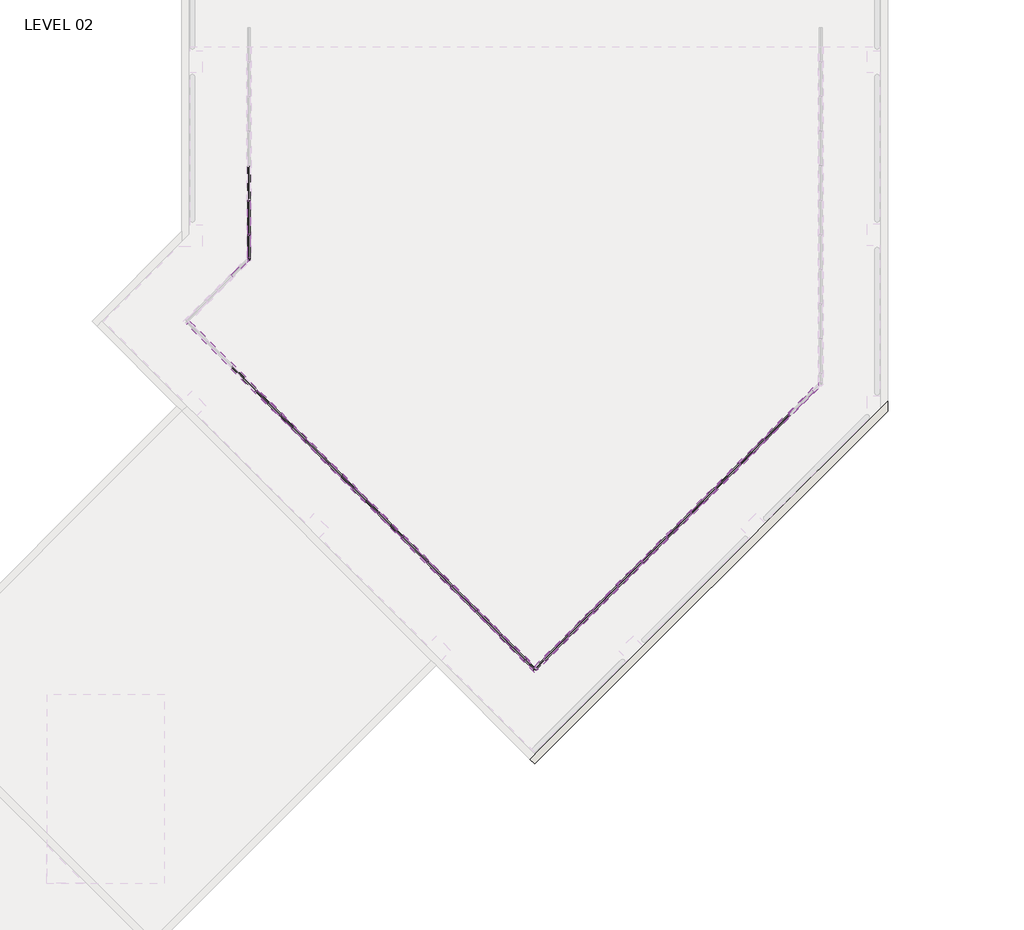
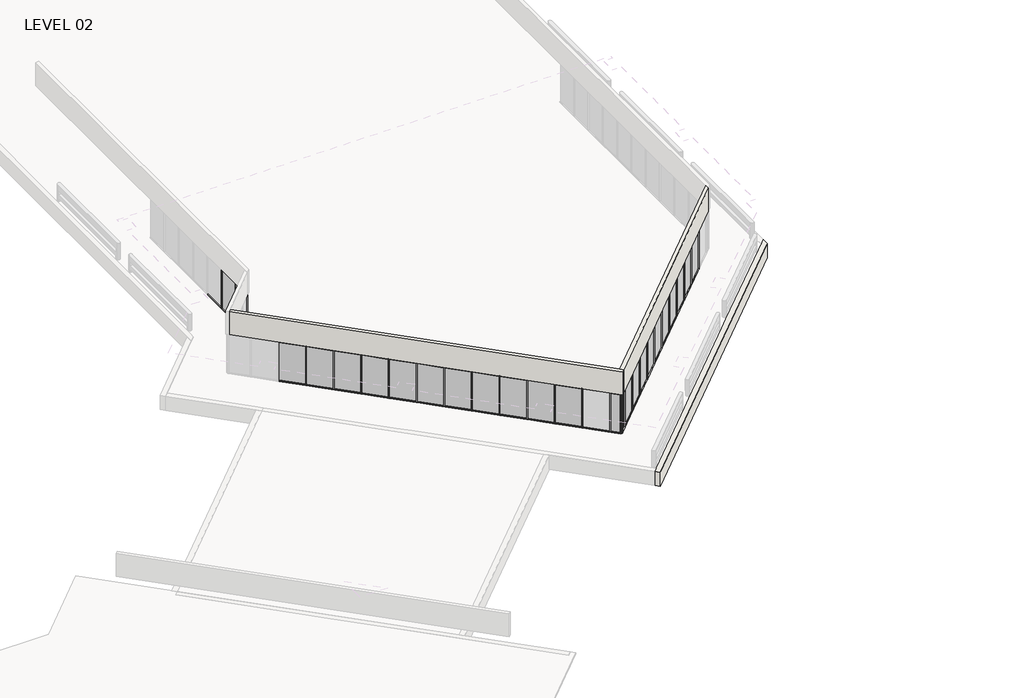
# One storey, part 10 of 19: 82 members, 25 plates, 3 walls.
"""IFC4 building model written with IfcOpenShell, lengths in millimetres."""

from ifc_helpers import new_model, si_unit, frame, origin, place, context, project, spatial, polyline, outline, extrude, faceted_brep, transform, mapped, element, save
from components import member_ed5eb8ce, member_5247f267, member_e44af9ab, member_800970d4, member_79e7b9d8, member_b8d22739, member_57f2eb73, plate_ce959b8d, plate_67294edd, plate_4e8ae714, plate_46a4c48d, plate_87d7c655

model = new_model("IFC4")

# Units and contexts
model_context = context("Model", 3, world=origin())
ifc_project = project(units=[si_unit("LENGTHUNIT", "METRE", prefix="MILLI")], contexts=[model_context])

# Site, building, storey
site = spatial("IfcSite", under=ifc_project)
building = spatial("IfcBuilding", under=site)
storey = spatial("IfcBuildingStorey", under=building, Name="LEVEL 02", Elevation=4140.2)

# Members
placement = place(None, origin())
member_shape = member_ed5eb8ce(model_context)
element("IfcMember", 1, ObjectType="Rectangular Mullion : 2\" x 4.5\" rectangular", at=placement, inside=storey, context=model_context, shape_type="MappedRepresentation", body=[
    mapped(member_shape, transform((64218.7136919, 44978.9020666, 6731.0), x_axis=(0.0, 0.0, 1.0), y_axis=(0.7071067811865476, -0.7071067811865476, 0.0), z_axis=(0.7071067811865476, 0.7071067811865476, 0.0))),
])
element("IfcMember", 2, ObjectType="Rectangular Mullion : 2\" x 4.5\" rectangular", at=placement, inside=storey, context=model_context, shape_type="MappedRepresentation", body=[
    mapped(member_shape, transform((64254.6347164, 46062.5675885, 6731.0), x_axis=(0.0, 0.0, 1.0), y_axis=(1.0, 0.0, 0.0), z_axis=(0.0, 1.0, 0.0))),
])
member_2_shape = member_5247f267(model_context)
element("IfcMember", 3, ObjectType="Rectangular Mullion : 2\" x 4.5\" rectangular", at=placement, inside=storey, context=model_context, shape_type="MappedRepresentation", body=[
    mapped(member_2_shape, transform((86989.159449, 37085.1868185, 6731.0), x_axis=(0.0, 0.0, 1.0), y_axis=(-0.707106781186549, 0.7071067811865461, 0.0), z_axis=(-0.7071067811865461, -0.707106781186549, 0.0))),
])
element("IfcMember", 4, ObjectType="Rectangular Mullion : 2\" x 4.5\" rectangular", at=placement, inside=storey, context=model_context, shape_type="MappedRepresentation", body=[
    mapped(member_2_shape, transform((84833.8979799, 34929.9253495, 6731.0), x_axis=(0.0, 0.0, 1.0), y_axis=(-0.7071067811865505, 0.7071067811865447, 0.0), z_axis=(-0.7071067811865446, -0.7071067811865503, 0.0))),
])
element("IfcMember", 5, ObjectType="Rectangular Mullion : 2\" x 4.5\" rectangular", at=placement, inside=storey, context=model_context, shape_type="MappedRepresentation", body=[
    mapped(member_2_shape, transform((83756.2672454, 33852.2946149, 6731.0), x_axis=(0.0, 0.0, 1.0), y_axis=(-0.7071067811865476, 0.7071067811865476, 0.0), z_axis=(-0.7071067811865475, -0.7071067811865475, 0.0))),
])
element("IfcMember", 6, ObjectType="Rectangular Mullion : 2\" x 4.5\" rectangular", at=placement, inside=storey, context=model_context, shape_type="MappedRepresentation", body=[
    mapped(member_2_shape, transform((82678.6365109, 32774.6638804, 6731.0), x_axis=(0.0, 0.0, 1.0), y_axis=(-0.7071067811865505, 0.7071067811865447, 0.0), z_axis=(-0.7071067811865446, -0.7071067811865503, 0.0))),
])
element("IfcMember", 7, ObjectType="Rectangular Mullion : 2\" x 4.5\" rectangular", at=placement, inside=storey, context=model_context, shape_type="MappedRepresentation", body=[
    mapped(member_2_shape, transform((80523.3750418, 30619.4024113, 6731.0), x_axis=(0.0, 0.0, 1.0), y_axis=(-0.7071067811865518, 0.7071067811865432, 0.0), z_axis=(-0.7071067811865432, -0.7071067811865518, 0.0))),
])
element("IfcMember", 8, ObjectType="Rectangular Mullion : 2\" x 4.5\" rectangular", at=placement, inside=storey, context=model_context, shape_type="MappedRepresentation", body=[
    mapped(member_2_shape, transform((79445.7443073, 29541.7716768, 6731.0), x_axis=(0.0, 0.0, 1.0), y_axis=(-0.7071067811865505, 0.7071067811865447, 0.0), z_axis=(-0.7071067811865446, -0.7071067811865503, 0.0))),
])
element("IfcMember", 9, ObjectType="Rectangular Mullion : 2\" x 4.5\" rectangular", at=placement, inside=storey, context=model_context, shape_type="MappedRepresentation", body=[
    mapped(member_2_shape, transform((75367.3482119, 28428.3985904, 6731.0), x_axis=(0.0, 0.0, 1.0), y_axis=(0.7071067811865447, 0.7071067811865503, 0.0), z_axis=(-0.7071067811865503, 0.7071067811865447, 0.0))),
])
element("IfcMember", 10, ObjectType="Rectangular Mullion : 2\" x 4.5\" rectangular", at=placement, inside=storey, context=model_context, shape_type="MappedRepresentation", body=[
    mapped(member_2_shape, transform((73212.0867428, 30583.6600595, 6731.0), x_axis=(0.0, 0.0, 1.0), y_axis=(0.7071067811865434, 0.7071067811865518, 0.0), z_axis=(-0.7071067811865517, 0.7071067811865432, 0.0))),
])
element("IfcMember", 11, ObjectType="Rectangular Mullion : 2\" x 4.5\" rectangular", at=placement, inside=storey, context=model_context, shape_type="MappedRepresentation", body=[
    mapped(member_2_shape, transform((71056.8252738, 32738.9215286, 6731.0), x_axis=(0.0, 0.0, 1.0), y_axis=(0.7071067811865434, 0.7071067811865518, 0.0), z_axis=(-0.7071067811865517, 0.7071067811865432, 0.0))),
])
element("IfcMember", 12, ObjectType="Rectangular Mullion : 2\" x 4.5\" rectangular", at=placement, inside=storey, context=model_context, shape_type="MappedRepresentation", body=[
    mapped(member_2_shape, transform((66746.6596809, 37049.0871214, 6731.0), x_axis=(0.0, 0.0, 1.0), y_axis=(0.7071067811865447, 0.7071067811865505, 0.0), z_axis=(-0.7071067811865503, 0.7071067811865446, 0.0))),
])
element("IfcMember", 13, ObjectType="Rectangular Mullion : 2\" x 4.5\" rectangular", at=placement, inside=storey, context=model_context, shape_type="MappedRepresentation", body=[
    mapped(member_2_shape, transform((64591.3982119, 39204.3485904, 6731.0), x_axis=(0.0, 0.0, 1.0), y_axis=(0.7071067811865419, 0.7071067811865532, 0.0), z_axis=(-0.7071067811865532, 0.7071067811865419, 0.0))),
])
element("IfcMember", 14, ObjectType="Rectangular Mullion : 2\" x 4.5\" rectangular", at=placement, inside=storey, context=model_context, shape_type="MappedRepresentation", body=[
    mapped(member_2_shape, transform((78368.1135728, 28464.1409423, 6731.0), x_axis=(0.0, 0.0, 1.0), y_axis=(-0.7071067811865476, 0.7071067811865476, 0.0), z_axis=(-0.7071067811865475, -0.7071067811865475, 0.0))),
])
element("IfcMember", 15, ObjectType="Rectangular Mullion : 2\" x 4.5\" rectangular", at=placement, inside=storey, context=model_context, shape_type="MappedRepresentation", body=[
    mapped(member_2_shape, transform((81601.0057764, 31697.0331459, 6731.0), x_axis=(0.0, 0.0, 1.0), y_axis=(-0.707106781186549, 0.7071067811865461, 0.0), z_axis=(-0.7071067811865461, -0.707106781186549, 0.0))),
])
element("IfcMember", 16, ObjectType="Rectangular Mullion : 2\" x 4.5\" rectangular", at=placement, inside=storey, context=model_context, shape_type="MappedRepresentation", body=[
    mapped(member_2_shape, transform((85911.5287145, 36007.556084, 6731.0), x_axis=(0.0, 0.0, 1.0), y_axis=(-0.7071067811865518, 0.7071067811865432, 0.0), z_axis=(-0.7071067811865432, -0.7071067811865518, 0.0))),
])
element("IfcMember", 17, ObjectType="Rectangular Mullion : 2\" x 4.5\" rectangular", at=placement, inside=storey, context=model_context, shape_type="MappedRepresentation", body=[
    mapped(member_2_shape, transform((88066.7901835, 38162.817553, 6731.0), x_axis=(0.0, 0.0, 1.0), y_axis=(-0.7071067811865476, 0.7071067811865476, 0.0), z_axis=(-0.7071067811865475, -0.7071067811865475, 0.0))),
])
element("IfcMember", 18, ObjectType="Rectangular Mullion : 2\" x 4.5\" rectangular", at=placement, inside=storey, context=model_context, shape_type="MappedRepresentation", body=[
    mapped(member_2_shape, transform((77290.4828382, 27386.5102078, 6731.0), x_axis=(0.0, 0.0, 1.0), y_axis=(-0.7071067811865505, 0.7071067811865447, 0.0), z_axis=(-0.7071067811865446, -0.7071067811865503, 0.0))),
])
element("IfcMember", 19, ObjectType="Rectangular Mullion : 2\" x 4.5\" rectangular", at=placement, inside=storey, context=model_context, shape_type="MappedRepresentation", body=[
    mapped(member_2_shape, transform((74289.7174773, 29506.029325, 6731.0), x_axis=(0.0, 0.0, 1.0), y_axis=(0.7071067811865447, 0.7071067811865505, 0.0), z_axis=(-0.7071067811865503, 0.7071067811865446, 0.0))),
])
element("IfcMember", 20, ObjectType="Rectangular Mullion : 2\" x 4.5\" rectangular", at=placement, inside=storey, context=model_context, shape_type="MappedRepresentation", body=[
    mapped(member_2_shape, transform((72134.4560083, 31661.290794, 6731.0), x_axis=(0.0, 0.0, 1.0), y_axis=(0.7071067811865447, 0.7071067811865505, 0.0), z_axis=(-0.7071067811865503, 0.7071067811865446, 0.0))),
])
element("IfcMember", 21, ObjectType="Rectangular Mullion : 2\" x 4.5\" rectangular", at=placement, inside=storey, context=model_context, shape_type="MappedRepresentation", body=[
    mapped(member_2_shape, transform((69979.1945392, 33816.5522631, 6731.0), x_axis=(0.0, 0.0, 1.0), y_axis=(0.7071067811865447, 0.7071067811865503, 0.0), z_axis=(-0.7071067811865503, 0.7071067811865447, 0.0))),
])
element("IfcMember", 22, ObjectType="Rectangular Mullion : 2\" x 4.5\" rectangular", at=placement, inside=storey, context=model_context, shape_type="MappedRepresentation", body=[
    mapped(member_2_shape, transform((67824.2904155, 35971.4563869, 6731.0), x_axis=(0.0, 0.0, 1.0), y_axis=(0.7071067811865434, 0.7071067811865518, 0.0), z_axis=(-0.7071067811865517, 0.7071067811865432, 0.0))),
])
element("IfcMember", 23, ObjectType="Rectangular Mullion : 2\" x 4.5\" rectangular", at=placement, inside=storey, context=model_context, shape_type="MappedRepresentation", body=[
    mapped(member_2_shape, transform((65669.0289464, 38126.7178559, 6731.0), x_axis=(0.0, 0.0, 1.0), y_axis=(0.7071067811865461, 0.7071067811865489, 0.0), z_axis=(-0.7071067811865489, 0.7071067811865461, 0.0))),
])
element("IfcMember", 24, ObjectType="Rectangular Mullion : 2\" x 4.5\" rectangular", at=placement, inside=storey, context=model_context, shape_type="MappedRepresentation", body=[
    mapped(member_2_shape, transform((64254.6347164, 47586.5675885, 6731.0), x_axis=(0.0, 0.0, 1.0), y_axis=(1.0, 0.0, 0.0), z_axis=(0.0, 1.0, 0.0))),
])
element("IfcMember", 25, ObjectType="Rectangular Mullion : 2\" x 4.5\" rectangular", at=placement, inside=storey, context=model_context, shape_type="MappedRepresentation", body=[
    mapped(member_shape, transform((64254.6347164, 45065.6230911, 4140.2), x_axis=(0.0, 0.0, -1.0), y_axis=(1.0, 0.0, 0.0), z_axis=(0.0, -1.0, 0.0))),
])
element("IfcMember", 26, ObjectType="Rectangular Mullion : 2\" x 4.5\" rectangular", at=placement, inside=storey, context=model_context, shape_type="MappedRepresentation", body=[
    mapped(member_2_shape, transform((86953.2384245, 37049.265794, 4140.2), x_axis=(0.0, 0.0, -1.0), y_axis=(-0.7071067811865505, 0.7071067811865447, 0.0), z_axis=(0.7071067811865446, 0.7071067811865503, 0.0))),
])
element("IfcMember", 27, ObjectType="Rectangular Mullion : 2\" x 4.5\" rectangular", at=placement, inside=storey, context=model_context, shape_type="MappedRepresentation", body=[
    mapped(member_2_shape, transform((84797.9769555, 34894.004325, 4140.2), x_axis=(0.0, 0.0, -1.0), y_axis=(-0.7071067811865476, 0.7071067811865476, 0.0), z_axis=(0.7071067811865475, 0.7071067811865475, 0.0))),
])
element("IfcMember", 28, ObjectType="Rectangular Mullion : 2\" x 4.5\" rectangular", at=placement, inside=storey, context=model_context, shape_type="MappedRepresentation", body=[
    mapped(member_2_shape, transform((83720.3462209, 33816.3735904, 4140.2), x_axis=(0.0, 0.0, -1.0), y_axis=(-0.7071067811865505, 0.7071067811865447, 0.0), z_axis=(0.7071067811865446, 0.7071067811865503, 0.0))),
])
element("IfcMember", 29, ObjectType="Rectangular Mullion : 2\" x 4.5\" rectangular", at=placement, inside=storey, context=model_context, shape_type="MappedRepresentation", body=[
    mapped(member_2_shape, transform((82642.7154864, 32738.7428559, 4140.2), x_axis=(0.0, 0.0, -1.0), y_axis=(-0.7071067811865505, 0.7071067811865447, 0.0), z_axis=(0.7071067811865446, 0.7071067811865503, 0.0))),
])
element("IfcMember", 30, ObjectType="Rectangular Mullion : 2\" x 4.5\" rectangular", at=placement, inside=storey, context=model_context, shape_type="MappedRepresentation", body=[
    mapped(member_2_shape, transform((80487.4540173, 30583.4813869, 4140.2), x_axis=(0.0, 0.0, -1.0), y_axis=(-0.7071067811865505, 0.7071067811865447, 0.0), z_axis=(0.7071067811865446, 0.7071067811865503, 0.0))),
])
element("IfcMember", 31, ObjectType="Rectangular Mullion : 2\" x 4.5\" rectangular", at=placement, inside=storey, context=model_context, shape_type="MappedRepresentation", body=[
    mapped(member_2_shape, transform((79409.8232828, 29505.8506523, 4140.2), x_axis=(0.0, 0.0, -1.0), y_axis=(-0.7071067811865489, 0.7071067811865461, 0.0), z_axis=(0.7071067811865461, 0.7071067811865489, 0.0))),
])
element("IfcMember", 32, ObjectType="Rectangular Mullion : 2\" x 4.5\" rectangular", at=placement, inside=storey, context=model_context, shape_type="MappedRepresentation", body=[
    mapped(member_2_shape, transform((75331.4271874, 28464.3196149, 4140.2), x_axis=(0.0, 0.0, -1.0), y_axis=(0.7071067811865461, 0.7071067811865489, 0.0), z_axis=(0.7071067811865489, -0.7071067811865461, 0.0))),
])
element("IfcMember", 33, ObjectType="Rectangular Mullion : 2\" x 4.5\" rectangular", at=placement, inside=storey, context=model_context, shape_type="MappedRepresentation", body=[
    mapped(member_2_shape, transform((73176.1657183, 30619.581084, 4140.2), x_axis=(0.0, 0.0, -1.0), y_axis=(0.7071067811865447, 0.7071067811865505, 0.0), z_axis=(0.7071067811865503, -0.7071067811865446, 0.0))),
])
element("IfcMember", 34, ObjectType="Rectangular Mullion : 2\" x 4.5\" rectangular", at=placement, inside=storey, context=model_context, shape_type="MappedRepresentation", body=[
    mapped(member_2_shape, transform((71020.9042493, 32774.842553, 4140.2), x_axis=(0.0, 0.0, -1.0), y_axis=(0.7071067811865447, 0.7071067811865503, 0.0), z_axis=(0.7071067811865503, -0.7071067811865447, 0.0))),
])
element("IfcMember", 35, ObjectType="Rectangular Mullion : 2\" x 4.5\" rectangular", at=placement, inside=storey, context=model_context, shape_type="MappedRepresentation", body=[
    mapped(member_2_shape, transform((68866.0001255, 34929.7466768, 4140.2), x_axis=(0.0, 0.0, -1.0), y_axis=(0.7071067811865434, 0.7071067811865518, 0.0), z_axis=(0.7071067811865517, -0.7071067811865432, 0.0))),
])
element("IfcMember", 36, ObjectType="Rectangular Mullion : 2\" x 4.5\" rectangular", at=placement, inside=storey, context=model_context, shape_type="MappedRepresentation", body=[
    mapped(member_2_shape, transform((66710.7386564, 37085.0081459, 4140.2), x_axis=(0.0, 0.0, -1.0), y_axis=(0.7071067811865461, 0.7071067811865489, 0.0), z_axis=(0.7071067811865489, -0.7071067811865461, 0.0))),
])
element("IfcMember", 37, ObjectType="Rectangular Mullion : 2\" x 4.5\" rectangular", at=placement, inside=storey, context=model_context, shape_type="MappedRepresentation", body=[
    mapped(member_2_shape, transform((64555.4771874, 39240.2696149, 4140.2), x_axis=(0.0, 0.0, -1.0), y_axis=(0.7071067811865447, 0.7071067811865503, 0.0), z_axis=(0.7071067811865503, -0.7071067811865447, 0.0))),
])
element("IfcMember", 38, ObjectType="Rectangular Mullion : 2\" x 4.5\" rectangular", at=placement, inside=storey, context=model_context, shape_type="MappedRepresentation", body=[
    mapped(member_2_shape, transform((78332.1925483, 28428.2199178, 4140.2), x_axis=(0.0, 0.0, -1.0), y_axis=(-0.707106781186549, 0.7071067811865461, 0.0), z_axis=(0.7071067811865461, 0.707106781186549, 0.0))),
])
element("IfcMember", 39, ObjectType="Rectangular Mullion : 2\" x 4.5\" rectangular", at=placement, inside=storey, context=model_context, shape_type="MappedRepresentation", body=[
    mapped(member_2_shape, transform((76409.0579219, 27386.6888804, 4140.2), x_axis=(0.0, 0.0, -1.0), y_axis=(0.7071067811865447, 0.7071067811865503, 0.0), z_axis=(0.7071067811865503, -0.7071067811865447, 0.0))),
])
element("IfcMember", 40, ObjectType="Rectangular Mullion : 2\" x 4.5\" rectangular", at=placement, inside=storey, context=model_context, shape_type="MappedRepresentation", body=[
    mapped(member_2_shape, transform((81565.0847519, 31661.1121214, 4140.2), x_axis=(0.0, 0.0, -1.0), y_axis=(-0.7071067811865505, 0.7071067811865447, 0.0), z_axis=(0.7071067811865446, 0.7071067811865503, 0.0))),
])
element("IfcMember", 41, ObjectType="Rectangular Mullion : 2\" x 4.5\" rectangular", at=placement, inside=storey, context=model_context, shape_type="MappedRepresentation", body=[
    mapped(member_2_shape, transform((85875.60769, 35971.6350595, 4140.2), x_axis=(0.0, 0.0, -1.0), y_axis=(-0.7071067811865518, 0.7071067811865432, 0.0), z_axis=(0.7071067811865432, 0.7071067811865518, 0.0))),
])
element("IfcMember", 42, ObjectType="Rectangular Mullion : 2\" x 4.5\" rectangular", at=placement, inside=storey, context=model_context, shape_type="MappedRepresentation", body=[
    mapped(member_2_shape, transform((88030.869159, 38126.8965286, 4140.2), x_axis=(0.0, 0.0, -1.0), y_axis=(-0.707106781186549, 0.7071067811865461, 0.0), z_axis=(0.7071067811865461, 0.707106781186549, 0.0))),
])
element("IfcMember", 43, ObjectType="Rectangular Mullion : 2\" x 4.5\" rectangular", at=placement, inside=storey, context=model_context, shape_type="MappedRepresentation", body=[
    mapped(member_2_shape, transform((74253.7964529, 29541.9503495, 4140.2), x_axis=(0.0, 0.0, -1.0), y_axis=(0.7071067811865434, 0.7071067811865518, 0.0), z_axis=(0.7071067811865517, -0.7071067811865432, 0.0))),
])
element("IfcMember", 44, ObjectType="Rectangular Mullion : 2\" x 4.5\" rectangular", at=placement, inside=storey, context=model_context, shape_type="MappedRepresentation", body=[
    mapped(member_2_shape, transform((72098.5349838, 31697.2118185, 4140.2), x_axis=(0.0, 0.0, -1.0), y_axis=(0.7071067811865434, 0.7071067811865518, 0.0), z_axis=(0.7071067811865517, -0.7071067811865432, 0.0))),
])
element("IfcMember", 45, ObjectType="Rectangular Mullion : 2\" x 4.5\" rectangular", at=placement, inside=storey, context=model_context, shape_type="MappedRepresentation", body=[
    mapped(member_2_shape, transform((67788.369391, 36007.3774113, 4140.2), x_axis=(0.0, 0.0, -1.0), y_axis=(0.7071067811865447, 0.7071067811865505, 0.0), z_axis=(0.7071067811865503, -0.7071067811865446, 0.0))),
])
element("IfcMember", 46, ObjectType="Rectangular Mullion : 2\" x 4.5\" rectangular", at=placement, inside=storey, context=model_context, shape_type="MappedRepresentation", body=[
    mapped(member_2_shape, transform((65633.1079219, 38162.6388804, 4140.2), x_axis=(0.0, 0.0, -1.0), y_axis=(0.7071067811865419, 0.7071067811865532, 0.0), z_axis=(0.7071067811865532, -0.7071067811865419, 0.0))),
])
element("IfcMember", 47, ObjectType="Rectangular Mullion : 2\" x 4.5\" rectangular", at=placement, inside=storey, context=model_context, shape_type="MappedRepresentation", body=[
    mapped(member_2_shape, transform((64254.6347164, 46113.3675885, 4140.2), x_axis=(0.0, 0.0, -1.0), y_axis=(1.0, 0.0, 0.0), z_axis=(0.0, -1.0, 0.0))),
])
element("IfcMember", 48, ObjectType="Rectangular Mullion : 2\" x 4.5\" rectangular", at=placement, inside=storey, context=model_context, shape_type="MappedRepresentation", body=[
    mapped(member_2_shape, transform((64254.6347164, 47637.3675885, 4140.2), x_axis=(0.0, 0.0, -1.0), y_axis=(1.0, 0.0, 0.0), z_axis=(0.0, -1.0, 0.0))),
])
member_3_shape = member_e44af9ab(model_context)
element("IfcMember", 49, ObjectType="Rectangular Mullion : 2\" x 4.5\" rectangular", at=placement, inside=storey, context=model_context, shape_type="MappedRepresentation", body=[
    mapped(member_3_shape, transform((86971.1989368, 37067.2263063, 4140.2), x_axis=(-0.7071067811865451, -0.7071067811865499, 0.0), y_axis=(-0.7071067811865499, 0.7071067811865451, 0.0), z_axis=(0.0, 0.0, -1.0))),
])
element("IfcMember", 50, ObjectType="Rectangular Mullion : 2\" x 4.5\" rectangular", at=placement, inside=storey, context=model_context, shape_type="MappedRepresentation", body=[
    mapped(member_3_shape, transform((84815.9374677, 34911.9648372, 4140.2), x_axis=(-0.7071067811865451, -0.7071067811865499, 0.0), y_axis=(-0.7071067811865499, 0.7071067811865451, 0.0), z_axis=(0.0, 0.0, -1.0))),
])
element("IfcMember", 51, ObjectType="Rectangular Mullion : 2\" x 4.5\" rectangular", at=placement, inside=storey, context=model_context, shape_type="MappedRepresentation", body=[
    mapped(member_3_shape, transform((83738.3067332, 33834.3341027, 4140.2), x_axis=(-0.7071067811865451, -0.7071067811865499, 0.0), y_axis=(-0.7071067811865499, 0.7071067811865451, 0.0), z_axis=(0.0, 0.0, -1.0))),
])
element("IfcMember", 52, ObjectType="Rectangular Mullion : 2\" x 4.5\" rectangular", at=placement, inside=storey, context=model_context, shape_type="MappedRepresentation", body=[
    mapped(member_3_shape, transform((82660.6759986, 32756.7033682, 4140.2), x_axis=(-0.7071067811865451, -0.7071067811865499, 0.0), y_axis=(-0.7071067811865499, 0.7071067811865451, 0.0), z_axis=(0.0, 0.0, -1.0))),
])
element("IfcMember", 53, ObjectType="Rectangular Mullion : 2\" x 4.5\" rectangular", at=placement, inside=storey, context=model_context, shape_type="MappedRepresentation", body=[
    mapped(member_3_shape, transform((80505.4145296, 30601.4418991, 4140.2), x_axis=(-0.7071067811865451, -0.7071067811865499, 0.0), y_axis=(-0.7071067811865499, 0.7071067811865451, 0.0), z_axis=(0.0, 0.0, -1.0))),
])
element("IfcMember", 54, ObjectType="Rectangular Mullion : 2\" x 4.5\" rectangular", at=placement, inside=storey, context=model_context, shape_type="MappedRepresentation", body=[
    mapped(member_3_shape, transform((79427.7837951, 29523.8111646, 4140.2), x_axis=(-0.7071067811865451, -0.7071067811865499, 0.0), y_axis=(-0.7071067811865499, 0.7071067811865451, 0.0), z_axis=(0.0, 0.0, -1.0))),
])
element("IfcMember", 55, ObjectType="Rectangular Mullion : 2\" x 4.5\" rectangular", at=placement, inside=storey, context=model_context, shape_type="MappedRepresentation", body=[
    mapped(member_3_shape, transform((75349.3876996, 28446.3591027, 4140.2), x_axis=(-0.7071067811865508, 0.7071067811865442, 0.0), y_axis=(0.7071067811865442, 0.7071067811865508, 0.0), z_axis=(0.0, 0.0, -1.0))),
])
element("IfcMember", 56, ObjectType="Rectangular Mullion : 2\" x 4.5\" rectangular", at=placement, inside=storey, context=model_context, shape_type="MappedRepresentation", body=[
    mapped(member_3_shape, transform((73194.1262306, 30601.6205717, 4140.2), x_axis=(-0.7071067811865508, 0.7071067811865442, 0.0), y_axis=(0.7071067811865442, 0.7071067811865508, 0.0), z_axis=(0.0, 0.0, -1.0))),
])
element("IfcMember", 57, ObjectType="Rectangular Mullion : 2\" x 4.5\" rectangular", at=placement, inside=storey, context=model_context, shape_type="MappedRepresentation", body=[
    mapped(member_3_shape, transform((71038.8647615, 32756.8820408, 4140.2), x_axis=(-0.7071067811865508, 0.7071067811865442, 0.0), y_axis=(0.7071067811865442, 0.7071067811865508, 0.0), z_axis=(0.0, 0.0, -1.0))),
])
element("IfcMember", 58, ObjectType="Rectangular Mullion : 2\" x 4.5\" rectangular", at=placement, inside=storey, context=model_context, shape_type="MappedRepresentation", body=[
    mapped(member_3_shape, transform((68883.9606377, 34911.7861646, 4140.2), x_axis=(-0.7071067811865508, 0.7071067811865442, 0.0), y_axis=(0.7071067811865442, 0.7071067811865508, 0.0), z_axis=(0.0, 0.0, -1.0))),
])
element("IfcMember", 59, ObjectType="Rectangular Mullion : 2\" x 4.5\" rectangular", at=placement, inside=storey, context=model_context, shape_type="MappedRepresentation", body=[
    mapped(member_3_shape, transform((66728.6991687, 37067.0476336, 4140.2), x_axis=(-0.7071067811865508, 0.7071067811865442, 0.0), y_axis=(0.7071067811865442, 0.7071067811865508, 0.0), z_axis=(0.0, 0.0, -1.0))),
])
element("IfcMember", 60, ObjectType="Rectangular Mullion : 2\" x 4.5\" rectangular", at=placement, inside=storey, context=model_context, shape_type="MappedRepresentation", body=[
    mapped(member_3_shape, transform((64573.4376996, 39222.3091027, 4140.2), x_axis=(-0.7071067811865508, 0.7071067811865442, 0.0), y_axis=(0.7071067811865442, 0.7071067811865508, 0.0), z_axis=(0.0, 0.0, -1.0))),
])
element("IfcMember", 61, ObjectType="Rectangular Mullion : 2\" x 4.5\" rectangular", at=placement, inside=storey, context=model_context, shape_type="MappedRepresentation", body=[
    mapped(member_3_shape, transform((78350.1530605, 28446.18043, 4140.2), x_axis=(-0.7071067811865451, -0.7071067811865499, 0.0), y_axis=(-0.7071067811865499, 0.7071067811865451, 0.0), z_axis=(0.0, 0.0, -1.0))),
])
element("IfcMember", 62, ObjectType="Rectangular Mullion : 2\" x 4.5\" rectangular", at=placement, inside=storey, context=model_context, shape_type="MappedRepresentation", body=[
    mapped(member_3_shape, transform((76427.0184342, 27368.7283682, 4140.2), x_axis=(-0.7071067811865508, 0.7071067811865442, 0.0), y_axis=(0.7071067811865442, 0.7071067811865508, 0.0), z_axis=(0.0, 0.0, -1.0))),
])
element("IfcMember", 63, ObjectType="Rectangular Mullion : 2\" x 4.5\" rectangular", at=placement, inside=storey, context=model_context, shape_type="MappedRepresentation", body=[
    mapped(member_3_shape, transform((81583.0452641, 31679.0726336, 4140.2), x_axis=(-0.7071067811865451, -0.7071067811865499, 0.0), y_axis=(-0.7071067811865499, 0.7071067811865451, 0.0), z_axis=(0.0, 0.0, -1.0))),
])
element("IfcMember", 64, ObjectType="Rectangular Mullion : 2\" x 4.5\" rectangular", at=placement, inside=storey, context=model_context, shape_type="MappedRepresentation", body=[
    mapped(member_3_shape, transform((85893.5682022, 35989.5955717, 4140.2), x_axis=(-0.7071067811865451, -0.7071067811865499, 0.0), y_axis=(-0.7071067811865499, 0.7071067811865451, 0.0), z_axis=(0.0, 0.0, -1.0))),
])
element("IfcMember", 65, ObjectType="Rectangular Mullion : 2\" x 4.5\" rectangular", at=placement, inside=storey, context=model_context, shape_type="MappedRepresentation", body=[
    mapped(member_3_shape, transform((88048.8296713, 38144.8570408, 4140.2), x_axis=(-0.7071067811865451, -0.7071067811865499, 0.0), y_axis=(-0.7071067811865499, 0.7071067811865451, 0.0), z_axis=(0.0, 0.0, -1.0))),
])
element("IfcMember", 66, ObjectType="Rectangular Mullion : 2\" x 4.5\" rectangular", at=placement, inside=storey, context=model_context, shape_type="MappedRepresentation", body=[
    mapped(member_3_shape, transform((77272.522326, 27368.5496955, 4140.2), x_axis=(-0.7071067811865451, -0.7071067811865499, 0.0), y_axis=(-0.7071067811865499, 0.7071067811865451, 0.0), z_axis=(0.0, 0.0, -1.0))),
])
element("IfcMember", 67, ObjectType="Rectangular Mullion : 2\" x 4.5\" rectangular", at=placement, inside=storey, context=model_context, shape_type="MappedRepresentation", body=[
    mapped(member_3_shape, transform((74271.7569651, 29523.9898372, 4140.2), x_axis=(-0.7071067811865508, 0.7071067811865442, 0.0), y_axis=(0.7071067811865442, 0.7071067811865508, 0.0), z_axis=(0.0, 0.0, -1.0))),
])
element("IfcMember", 68, ObjectType="Rectangular Mullion : 2\" x 4.5\" rectangular", at=placement, inside=storey, context=model_context, shape_type="MappedRepresentation", body=[
    mapped(member_3_shape, transform((72116.495496, 31679.2513063, 4140.2), x_axis=(-0.7071067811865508, 0.7071067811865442, 0.0), y_axis=(0.7071067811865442, 0.7071067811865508, 0.0), z_axis=(0.0, 0.0, -1.0))),
])
element("IfcMember", 69, ObjectType="Rectangular Mullion : 2\" x 4.5\" rectangular", at=placement, inside=storey, context=model_context, shape_type="MappedRepresentation", body=[
    mapped(member_3_shape, transform((69961.234027, 33834.5127753, 4140.2), x_axis=(-0.7071067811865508, 0.7071067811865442, 0.0), y_axis=(0.7071067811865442, 0.7071067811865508, 0.0), z_axis=(0.0, 0.0, -1.0))),
])
element("IfcMember", 70, ObjectType="Rectangular Mullion : 2\" x 4.5\" rectangular", at=placement, inside=storey, context=model_context, shape_type="MappedRepresentation", body=[
    mapped(member_3_shape, transform((67806.3299032, 35989.4168991, 4140.2), x_axis=(-0.7071067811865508, 0.7071067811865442, 0.0), y_axis=(0.7071067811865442, 0.7071067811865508, 0.0), z_axis=(0.0, 0.0, -1.0))),
])
element("IfcMember", 71, ObjectType="Rectangular Mullion : 2\" x 4.5\" rectangular", at=placement, inside=storey, context=model_context, shape_type="MappedRepresentation", body=[
    mapped(member_3_shape, transform((65651.0684342, 38144.6783682, 4140.2), x_axis=(-0.7071067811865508, 0.7071067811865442, 0.0), y_axis=(0.7071067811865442, 0.7071067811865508, 0.0), z_axis=(0.0, 0.0, -1.0))),
])
element("IfcMember", 72, ObjectType="Rectangular Mullion : 2\" x 4.5\" rectangular", at=placement, inside=storey, context=model_context, shape_type="MappedRepresentation", body=[
    mapped(member_3_shape, transform((64254.6347164, 46087.9675885, 4140.2), x_axis=(0.0, 1.0, 0.0), y_axis=(1.0, 0.0, 0.0), z_axis=(0.0, 0.0, -1.0))),
])
element("IfcMember", 73, ObjectType="Rectangular Mullion : 2\" x 4.5\" rectangular", at=placement, inside=storey, context=model_context, shape_type="MappedRepresentation", body=[
    mapped(member_3_shape, transform((64254.6347164, 47611.9675885, 4140.2), x_axis=(0.0, 1.0, 0.0), y_axis=(1.0, 0.0, 0.0), z_axis=(0.0, 0.0, -1.0))),
])
member_4_shape = member_800970d4(model_context)
element("IfcMember", 74, ObjectType="Rectangular Mullion : 2\" x 4.5\" rectangular", at=placement, inside=storey, context=model_context, shape_type="MappedRepresentation", body=[
    mapped(member_4_shape, transform((76849.8597164, 26945.8870859, 4140.2), x_axis=(-0.7071067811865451, -0.7071067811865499, 0.0), y_axis=(-0.7071067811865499, 0.7071067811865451, 0.0), z_axis=(0.0, 0.0, -1.0))),
])
element("IfcMember", 75, ObjectType="Rectangular Mullion : 2\" x 4.5\" rectangular", at=placement, inside=storey, context=model_context, shape_type="MappedRepresentation", body=[
    mapped(member_4_shape, transform((64254.6347164, 45014.8230911, 4140.2), x_axis=(0.7071067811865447, 0.7071067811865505, 0.0), y_axis=(0.7071067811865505, -0.7071067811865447, 0.0), z_axis=(0.0, 0.0, -1.0))),
])
element("IfcMember", 76, ObjectType="Rectangular Mullion : 2\" x 4.5\" rectangular", at=placement, inside=storey, context=model_context, shape_type="MappedRepresentation", body=[
    mapped(member_4_shape, transform((76849.8597164, 26945.8870859, 6731.0), x_axis=(0.7071067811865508, -0.7071067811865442, 0.0), y_axis=(0.7071067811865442, 0.7071067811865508, 0.0), z_axis=(0.0, 0.0, 1.0))),
])
element("IfcMember", 77, ObjectType="Rectangular Mullion : 2\" x 4.5\" rectangular", at=placement, inside=storey, context=model_context, shape_type="MappedRepresentation", body=[
    mapped(member_4_shape, transform((64254.6347164, 45014.8230911, 6731.0), x_axis=(0.0, -1.0, 0.0), y_axis=(1.0, 0.0, 0.0), z_axis=(0.0, 0.0, 1.0))),
])
member_5_shape = member_79e7b9d8(model_context)
element("IfcMember", 78, ObjectType="Rectangular Mullion : 2\" x 4.5\" rectangular", at=placement, inside=storey, context=model_context, shape_type="MappedRepresentation", body=[
    mapped(member_5_shape, transform((77254.5618138, 27350.5891833, 4140.2), x_axis=(0.0, 0.0, -1.0), y_axis=(-0.7071067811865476, 0.7071067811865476, 0.0), z_axis=(0.7071067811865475, 0.7071067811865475, 0.0))),
])
member_6_shape = member_b8d22739(model_context)
element("IfcMember", 79, ObjectType="Rectangular Mullion : 2\" x 4.5\" rectangular", at=placement, inside=storey, context=model_context, shape_type="MappedRepresentation", body=[
    mapped(member_6_shape, transform((76813.9386919, 26981.8081104, 4140.2), x_axis=(0.0, 0.0, -1.0), y_axis=(0.7071067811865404, 0.7071067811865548, 0.0), z_axis=(0.7071067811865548, -0.7071067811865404, 0.0))),
])
element("IfcMember", 80, ObjectType="Rectangular Mullion : 2\" x 4.5\" rectangular", at=placement, inside=storey, context=model_context, shape_type="MappedRepresentation", body=[
    mapped(member_6_shape, transform((76444.9789464, 27350.7678559, 6731.0), x_axis=(0.0, 0.0, 1.0), y_axis=(0.7071067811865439, 0.7071067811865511, 0.0), z_axis=(-0.7071067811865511, 0.7071067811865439, 0.0))),
])
member_7_shape = member_57f2eb73(model_context)
element("IfcMember", 81, ObjectType="Rectangular Mullion : 2\" x 4.5\" rectangular", at=placement, inside=storey, context=model_context, shape_type="MappedRepresentation", body=[
    mapped(member_7_shape, transform((68901.92115, 34893.8256523, 6731.0), x_axis=(0.0, 0.0, 1.0), y_axis=(0.7071067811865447, 0.7071067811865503, 0.0), z_axis=(-0.7071067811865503, 0.7071067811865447, 0.0))),
])
element("IfcMember", 82, ObjectType="Rectangular Mullion : 2\" x 4.5\" rectangular", at=placement, inside=storey, context=model_context, shape_type="MappedRepresentation", body=[
    mapped(member_7_shape, transform((69943.2735147, 33852.4732876, 4140.2), x_axis=(0.0, 0.0, -1.0), y_axis=(0.7071067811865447, 0.7071067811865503, 0.0), z_axis=(0.7071067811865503, -0.7071067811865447, 0.0))),
])

# Plates
plate_shape = plate_ce959b8d(model_context)
element("IfcPlate", 83, ObjectType="System Panel : 1/4\" Glass", at=placement, inside=storey, context=model_context, shape_type="MappedRepresentation", body=[
    mapped(plate_shape, transform((64254.6347164, 45564.0953398, 4191.0), x_axis=(0.0, 1.0, 0.0), y_axis=(-1.0, 0.0, 0.0), z_axis=(0.0, 0.0, 1.0))),
])
plate_2_shape = plate_67294edd(model_context)
element("IfcPlate", 84, ObjectType="System Panel : 1/4\" Glass", at=placement, inside=storey, context=model_context, shape_type="MappedRepresentation", body=[
    mapped(plate_2_shape, transform((86432.3835695, 36528.410939, 4191.0), x_axis=(-0.7071067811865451, -0.7071067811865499, 0.0), y_axis=(0.7071067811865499, -0.7071067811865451, 0.0), z_axis=(0.0, 0.0, 1.0))),
])
element("IfcPlate", 85, ObjectType="System Panel : 1/4\" Glass", at=placement, inside=storey, context=model_context, shape_type="MappedRepresentation", body=[
    mapped(plate_2_shape, transform((84277.1221004, 34373.14947, 4191.0), x_axis=(-0.7071067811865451, -0.7071067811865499, 0.0), y_axis=(0.7071067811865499, -0.7071067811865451, 0.0), z_axis=(0.0, 0.0, 1.0))),
])
element("IfcPlate", 86, ObjectType="System Panel : 1/4\" Glass", at=placement, inside=storey, context=model_context, shape_type="MappedRepresentation", body=[
    mapped(plate_2_shape, transform((83199.4913659, 33295.5187354, 4191.0), x_axis=(-0.7071067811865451, -0.7071067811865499, 0.0), y_axis=(0.7071067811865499, -0.7071067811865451, 0.0), z_axis=(0.0, 0.0, 1.0))),
])
element("IfcPlate", 87, ObjectType="System Panel : 1/4\" Glass", at=placement, inside=storey, context=model_context, shape_type="MappedRepresentation", body=[
    mapped(plate_2_shape, transform((82121.8606314, 32217.8880009, 4191.0), x_axis=(-0.7071067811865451, -0.7071067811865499, 0.0), y_axis=(0.7071067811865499, -0.7071067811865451, 0.0), z_axis=(0.0, 0.0, 1.0))),
])
element("IfcPlate", 88, ObjectType="System Panel : 1/4\" Glass", at=placement, inside=storey, context=model_context, shape_type="MappedRepresentation", body=[
    mapped(plate_2_shape, transform((79966.5991623, 30062.6265318, 4191.0), x_axis=(-0.7071067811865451, -0.7071067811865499, 0.0), y_axis=(0.7071067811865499, -0.7071067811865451, 0.0), z_axis=(0.0, 0.0, 1.0))),
])
element("IfcPlate", 89, ObjectType="System Panel : 1/4\" Glass", at=placement, inside=storey, context=model_context, shape_type="MappedRepresentation", body=[
    mapped(plate_2_shape, transform((78888.9684278, 28984.9957973, 4191.0), x_axis=(-0.7071067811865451, -0.7071067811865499, 0.0), y_axis=(0.7071067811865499, -0.7071067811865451, 0.0), z_axis=(0.0, 0.0, 1.0))),
])
element("IfcPlate", 90, ObjectType="System Panel : 1/4\" Glass", at=placement, inside=storey, context=model_context, shape_type="MappedRepresentation", body=[
    mapped(plate_2_shape, transform((74810.5723324, 28985.17447, 4191.0), x_axis=(-0.7071067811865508, 0.7071067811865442, 0.0), y_axis=(-0.7071067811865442, -0.7071067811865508, 0.0), z_axis=(0.0, 0.0, 1.0))),
])
element("IfcPlate", 91, ObjectType="System Panel : 1/4\" Glass", at=placement, inside=storey, context=model_context, shape_type="MappedRepresentation", body=[
    mapped(plate_2_shape, transform((72655.3108633, 31140.435939, 4191.0), x_axis=(-0.7071067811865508, 0.7071067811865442, 0.0), y_axis=(-0.7071067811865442, -0.7071067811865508, 0.0), z_axis=(0.0, 0.0, 1.0))),
])
element("IfcPlate", 92, ObjectType="System Panel : 1/4\" Glass", at=placement, inside=storey, context=model_context, shape_type="MappedRepresentation", body=[
    mapped(plate_2_shape, transform((70500.0493943, 33295.6974081, 4191.0), x_axis=(-0.7071067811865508, 0.7071067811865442, 0.0), y_axis=(-0.7071067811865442, -0.7071067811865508, 0.0), z_axis=(0.0, 0.0, 1.0))),
])
element("IfcPlate", 93, ObjectType="System Panel : 1/4\" Glass", at=placement, inside=storey, context=model_context, shape_type="MappedRepresentation", body=[
    mapped(plate_2_shape, transform((68345.1452705, 35450.6015318, 4191.0), x_axis=(-0.7071067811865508, 0.7071067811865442, 0.0), y_axis=(-0.7071067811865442, -0.7071067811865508, 0.0), z_axis=(0.0, 0.0, 1.0))),
])
element("IfcPlate", 94, ObjectType="System Panel : 1/4\" Glass", at=placement, inside=storey, context=model_context, shape_type="MappedRepresentation", body=[
    mapped(plate_2_shape, transform((66189.8838014, 37605.8630009, 4191.0), x_axis=(-0.7071067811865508, 0.7071067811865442, 0.0), y_axis=(-0.7071067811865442, -0.7071067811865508, 0.0), z_axis=(0.0, 0.0, 1.0))),
])
element("IfcPlate", 95, ObjectType="System Panel : 1/4\" Glass", at=placement, inside=storey, context=model_context, shape_type="MappedRepresentation", body=[
    mapped(plate_2_shape, transform((64034.6223324, 39761.12447, 4191.0), x_axis=(-0.7071067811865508, 0.7071067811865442, 0.0), y_axis=(-0.7071067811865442, -0.7071067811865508, 0.0), z_axis=(0.0, 0.0, 1.0))),
])
element("IfcPlate", 96, ObjectType="System Panel : 1/4\" Glass", at=placement, inside=storey, context=model_context, shape_type="MappedRepresentation", body=[
    mapped(plate_2_shape, transform((77811.3376933, 27907.3650628, 4191.0), x_axis=(-0.7071067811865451, -0.7071067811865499, 0.0), y_axis=(0.7071067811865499, -0.7071067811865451, 0.0), z_axis=(0.0, 0.0, 1.0))),
])
element("IfcPlate", 97, ObjectType="System Panel : 1/4\" Glass", at=placement, inside=storey, context=model_context, shape_type="MappedRepresentation", body=[
    mapped(plate_2_shape, transform((81044.2298969, 31140.2572664, 4191.0), x_axis=(-0.7071067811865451, -0.7071067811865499, 0.0), y_axis=(0.7071067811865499, -0.7071067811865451, 0.0), z_axis=(0.0, 0.0, 1.0))),
])
element("IfcPlate", 98, ObjectType="System Panel : 1/4\" Glass", at=placement, inside=storey, context=model_context, shape_type="MappedRepresentation", body=[
    mapped(plate_2_shape, transform((85354.752835, 35450.7802045, 4191.0), x_axis=(-0.7071067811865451, -0.7071067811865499, 0.0), y_axis=(0.7071067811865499, -0.7071067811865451, 0.0), z_axis=(0.0, 0.0, 1.0))),
])
element("IfcPlate", 99, ObjectType="System Panel : 1/4\" Glass", at=placement, inside=storey, context=model_context, shape_type="MappedRepresentation", body=[
    mapped(plate_2_shape, transform((87510.014304, 37606.0416735, 4191.0), x_axis=(-0.7071067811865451, -0.7071067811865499, 0.0), y_axis=(0.7071067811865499, -0.7071067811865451, 0.0), z_axis=(0.0, 0.0, 1.0))),
])
element("IfcPlate", 100, ObjectType="System Panel : 1/4\" Glass", at=placement, inside=storey, context=model_context, shape_type="MappedRepresentation", body=[
    mapped(plate_2_shape, transform((73732.9415978, 30062.8052045, 4191.0), x_axis=(-0.7071067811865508, 0.7071067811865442, 0.0), y_axis=(-0.7071067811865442, -0.7071067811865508, 0.0), z_axis=(0.0, 0.0, 1.0))),
])
element("IfcPlate", 101, ObjectType="System Panel : 1/4\" Glass", at=placement, inside=storey, context=model_context, shape_type="MappedRepresentation", body=[
    mapped(plate_2_shape, transform((71577.6801288, 32218.0666735, 4191.0), x_axis=(-0.7071067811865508, 0.7071067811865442, 0.0), y_axis=(-0.7071067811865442, -0.7071067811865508, 0.0), z_axis=(0.0, 0.0, 1.0))),
])
element("IfcPlate", 102, ObjectType="System Panel : 1/4\" Glass", at=placement, inside=storey, context=model_context, shape_type="MappedRepresentation", body=[
    mapped(plate_2_shape, transform((67267.5145359, 36528.2322664, 4191.0), x_axis=(-0.7071067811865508, 0.7071067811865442, 0.0), y_axis=(-0.7071067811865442, -0.7071067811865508, 0.0), z_axis=(0.0, 0.0, 1.0))),
])
element("IfcPlate", 103, ObjectType="System Panel : 1/4\" Glass", at=placement, inside=storey, context=model_context, shape_type="MappedRepresentation", body=[
    mapped(plate_2_shape, transform((65112.2530669, 38683.4937354, 4191.0), x_axis=(-0.7071067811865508, 0.7071067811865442, 0.0), y_axis=(-0.7071067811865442, -0.7071067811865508, 0.0), z_axis=(0.0, 0.0, 1.0))),
])
element("IfcPlate", 104, ObjectType="System Panel : 1/4\" Glass", at=placement, inside=storey, context=model_context, shape_type="MappedRepresentation", body=[
    mapped(plate_2_shape, transform((64254.6347164, 46849.9675885, 4191.0), x_axis=(0.0, 1.0, 0.0), y_axis=(-1.0, 0.0, 0.0), z_axis=(0.0, 0.0, 1.0))),
])
plate_3_shape = plate_4e8ae714(model_context)
element("IfcPlate", 105, ObjectType="System Panel : 1/4\" Glass", at=placement, inside=storey, context=model_context, shape_type="MappedRepresentation", body=[
    mapped(plate_3_shape, transform((76629.4588192, 27166.2879832, 4191.0), x_axis=(-0.7071067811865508, 0.7071067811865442, 0.0), y_axis=(-0.7071067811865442, -0.7071067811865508, 0.0), z_axis=(0.0, 0.0, 1.0))),
])
plate_4_shape = plate_46a4c48d(model_context)
element("IfcPlate", 106, ObjectType="System Panel : 1/4\" Glass", at=placement, inside=storey, context=model_context, shape_type="MappedRepresentation", body=[
    mapped(plate_4_shape, transform((77070.1712773, 27166.1986468, 4191.0), x_axis=(-0.7071067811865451, -0.7071067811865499, 0.0), y_axis=(0.7071067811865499, -0.7071067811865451, 0.0), z_axis=(0.0, 0.0, 1.0))),
])
plate_5_shape = plate_87d7c655(model_context)
element("IfcPlate", 107, ObjectType="System Panel : 1/4\" Glass", at=placement, inside=storey, context=model_context, shape_type="MappedRepresentation", body=[
    mapped(plate_5_shape, transform((69422.5973324, 34373.14947, 4191.0), x_axis=(-0.7071067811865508, 0.7071067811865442, 0.0), y_axis=(-0.7071067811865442, -0.7071067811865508, 0.0), z_axis=(0.0, 0.0, 1.0))),
])

# Walls
element("IfcWall", 108, ObjectType="01-CONCRETE-12", at=placement, inside=storey, context=model_context, shape_type="Brep", body=[
    faceted_brep([(76849.8597164, 22779.0482457, 3225.8), (92391.4847164, 38320.6732457, 3225.8), (92391.4847164, 38320.6732457, 4140.2), (76849.8597164, 22779.0482457, 4140.2), (76634.3335695, 22994.5743926, 3225.8), (76634.3335695, 22994.5743926, 4140.2), (76849.8597164, 23210.1005396, 4140.2), (80991.0557409, 27351.296564, 4140.2), (81600.6557409, 27960.896564, 4140.2), (86379.0307409, 32739.271564, 4140.2), (86988.6307409, 33348.871564, 4140.2), (91737.2477899, 38097.488613, 4140.2), (92086.6847164, 38446.9255396, 4140.2), (92391.4847164, 38751.7255396, 4140.2), (92391.4847164, 38751.7255396, 3225.8), (92086.6847164, 38446.9255396, 3225.8), (91737.2477899, 38097.488613, 3225.8), (86988.6307409, 33348.871564, 3225.8), (86379.0307409, 32739.271564, 3225.8), (81600.6557409, 27960.896564, 3225.8), (80991.0557409, 27351.296564, 3225.8), (76849.8597164, 23210.1005396, 3225.8)], [[[0, 1, 2, 3]], [[4, 5, 6, 7, 8, 9, 10, 11, 12, 13, 14, 15, 16, 17, 18, 19, 20, 21]], [[1, 0, 4, 21, 20, 19, 18, 17, 16, 15, 14]], [[3, 2, 13, 12, 11, 10, 9, 8, 7, 6, 5]], [[2, 1, 14, 13]], [[0, 3, 5, 4]]]),
])
element("IfcWall", 109, ObjectType="8\" Existing Wall", at=placement, inside=storey, context=model_context, shape_type="Brep", body=[
    faceted_brep([(61517.7792138, 42134.2834906, 6731.0), (76849.8597164, 26802.202988, 6731.0), (76849.8597164, 26802.202988, 8229.6), (61517.7792138, 42134.2834906, 8229.6), (61661.4633117, 42277.9675885, 6731.0), (61661.4633117, 42277.9675885, 8229.6), (76849.8597164, 27089.5711839, 8229.6), (76993.5438143, 26945.8870859, 8229.6), (76993.5438143, 26945.8870859, 6731.0), (76849.8597164, 27089.5711839, 6731.0)], [[[0, 1, 2, 3]], [[4, 5, 6, 7, 8, 9]], [[1, 0, 4, 9, 8]], [[3, 2, 7, 6, 5]], [[0, 3, 5, 4]], [[2, 1, 8, 7]]]),
])
element("IfcWall", 110, ObjectType="8\" Existing Wall", at=placement, inside=storey, context=model_context, shape_type="SweptSolid", body=[
    extrude(outline(polyline([(89343.4847164, 39295.827988), (76993.5438143, 26945.8870859), (76849.8597164, 27089.5711839), (89343.4847164, 39583.1961839), (89343.4847164, 39295.827988)])), frame((0.0, 0.0, 6731.0), z_axis=(0.0, 0.0, 1.0), x_axis=(1.0, 0.0, 0.0)), (0.0, 0.0, 1.0), 1498.6),
])

save(model, "model.ifc")
